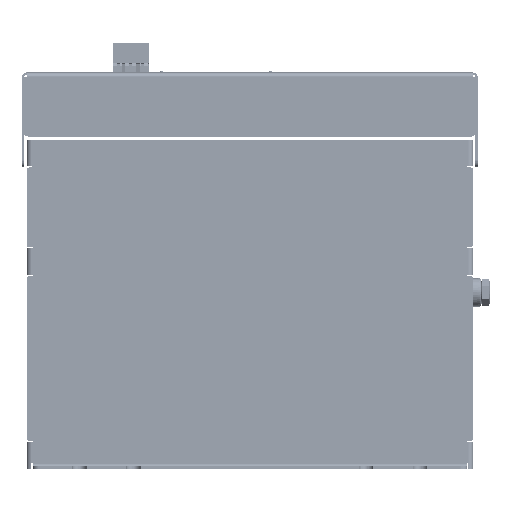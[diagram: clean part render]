
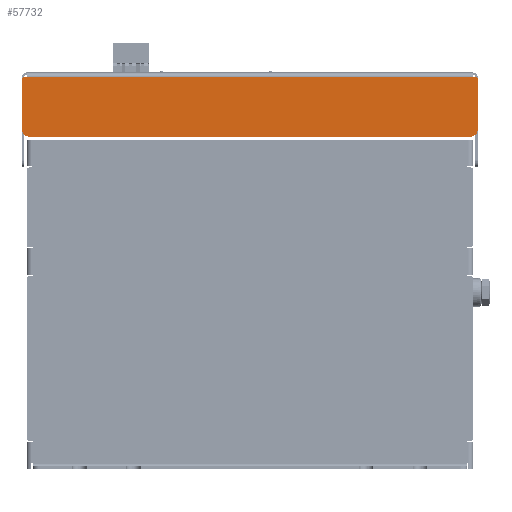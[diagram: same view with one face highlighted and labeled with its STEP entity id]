
A CAD part, left-side view. The second image highlights one B-rep face of the part: STEP entity #57732.
In plain terms, the highlighted planar face has unit normal (-1, 0, 0).
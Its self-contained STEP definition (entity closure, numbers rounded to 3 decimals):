
#57732=ADVANCED_FACE('',(#108839),#108841,.T.);
#108839=FACE_BOUND('',#108840,.T.);
#108840=EDGE_LOOP('',(#152918,#152919,#152920,#152921,#152922,#152923,#152924,#152925,
#152926,#152927));
#108841=PLANE('',#108842);
#108842=AXIS2_PLACEMENT_3D('',#108843,#108844,#108845);
#108843=CARTESIAN_POINT('',(-50.,0.,122.1));
#108844=DIRECTION('',(-1.,0.,0.));
#108845=DIRECTION('',(0.,-1.,0.));
#152918=ORIENTED_EDGE('',*,*,#174501,.F.);
#152919=ORIENTED_EDGE('',*,*,#174515,.T.);
#152920=ORIENTED_EDGE('',*,*,#174514,.F.);
#152921=ORIENTED_EDGE('',*,*,#174512,.T.);
#152922=ORIENTED_EDGE('',*,*,#174510,.F.);
#152923=ORIENTED_EDGE('',*,*,#174508,.T.);
#152924=ORIENTED_EDGE('',*,*,#173637,.T.);
#152925=ORIENTED_EDGE('',*,*,#174506,.T.);
#152926=ORIENTED_EDGE('',*,*,#174505,.F.);
#152927=ORIENTED_EDGE('',*,*,#174502,.T.);
#173637=EDGE_CURVE('',#205588,#205584,#205629,.T.);
#174501=EDGE_CURVE('',#206923,#206921,#206925,.F.);
#174502=EDGE_CURVE('',#206926,#206921,#206927,.T.);
#174505=EDGE_CURVE('',#206926,#206929,#206931,.F.);
#174506=EDGE_CURVE('',#205584,#206929,#206932,.T.);
#174508=EDGE_CURVE('',#206933,#205588,#206935,.T.);
#174510=EDGE_CURVE('',#206933,#206936,#206938,.F.);
#174512=EDGE_CURVE('',#206939,#206936,#206941,.T.);
#174514=EDGE_CURVE('',#206939,#206942,#206944,.F.);
#174515=EDGE_CURVE('',#206923,#206942,#206945,.T.);
#205584=VERTEX_POINT('',#291777);
#205588=VERTEX_POINT('',#291788);
#205629=LINE('',#291900,#291901);
#206921=VERTEX_POINT('',#297756);
#206923=VERTEX_POINT('',#297760);
#206925=CIRCLE('',#297764,3.);
#206926=VERTEX_POINT('',#297768);
#206927=LINE('',#297769,#297770);
#206929=VERTEX_POINT('',#297775);
#206931=CIRCLE('',#297779,1.);
#206932=LINE('',#297783,#297784);
#206933=VERTEX_POINT('',#297786);
#206935=LINE('',#297790,#297791);
#206936=VERTEX_POINT('',#297793);
#206938=CIRCLE('',#297797,1.);
#206939=VERTEX_POINT('',#297801);
#206941=LINE('',#297805,#297806);
#206942=VERTEX_POINT('',#297808);
#206944=CIRCLE('',#297812,3.);
#206945=LINE('',#297816,#297817);
#291777=CARTESIAN_POINT('',(-50.,95.,120.1));
#291788=CARTESIAN_POINT('',(-50.,-95.,120.1));
#291900=CARTESIAN_POINT('',(-50.,-95.,120.1));
#291901=VECTOR('',#291902,1.);
#291902=DIRECTION('',(0.,1.,0.));
#297756=CARTESIAN_POINT('',(-50.,97.,97.8));
#297760=CARTESIAN_POINT('',(-50.,94.,94.8));
#297764=AXIS2_PLACEMENT_3D('',#297765,#297766,#297767);
#297765=CARTESIAN_POINT('',(-50.,94.,97.8));
#297766=DIRECTION('',(-1.,0.,0.));
#297767=DIRECTION('',(0.,1.,0.));
#297768=CARTESIAN_POINT('',(-50.,97.,119.1));
#297769=CARTESIAN_POINT('',(-50.,97.,119.1));
#297770=VECTOR('',#297771,1.);
#297771=DIRECTION('',(0.,0.,-1.));
#297775=CARTESIAN_POINT('',(-50.,96.,120.1));
#297779=AXIS2_PLACEMENT_3D('',#297780,#297781,#297782);
#297780=CARTESIAN_POINT('',(-50.,96.,119.1));
#297781=DIRECTION('',(-1.,0.,0.));
#297782=DIRECTION('',(0.,0.,1.));
#297783=CARTESIAN_POINT('',(-50.,95.,120.1));
#297784=VECTOR('',#297785,1.);
#297785=DIRECTION('',(0.,1.,0.));
#297786=CARTESIAN_POINT('',(-50.,-96.,120.1));
#297790=CARTESIAN_POINT('',(-50.,-96.,120.1));
#297791=VECTOR('',#297792,1.);
#297792=DIRECTION('',(0.,1.,0.));
#297793=CARTESIAN_POINT('',(-50.,-97.,119.1));
#297797=AXIS2_PLACEMENT_3D('',#297798,#297799,#297800);
#297798=CARTESIAN_POINT('',(-50.,-96.,119.1));
#297799=DIRECTION('',(-1.,0.,0.));
#297800=DIRECTION('',(0.,-1.,0.));
#297801=CARTESIAN_POINT('',(-50.,-97.,97.8));
#297805=CARTESIAN_POINT('',(-50.,-97.,97.8));
#297806=VECTOR('',#297807,1.);
#297807=DIRECTION('',(0.,0.,1.));
#297808=CARTESIAN_POINT('',(-50.,-94.,94.8));
#297812=AXIS2_PLACEMENT_3D('',#297813,#297814,#297815);
#297813=CARTESIAN_POINT('',(-50.,-94.,97.8));
#297814=DIRECTION('',(-1.,0.,0.));
#297815=DIRECTION('',(0.,0.,-1.));
#297816=CARTESIAN_POINT('',(-50.,94.,94.8));
#297817=VECTOR('',#297818,1.);
#297818=DIRECTION('',(0.,-1.,0.));
